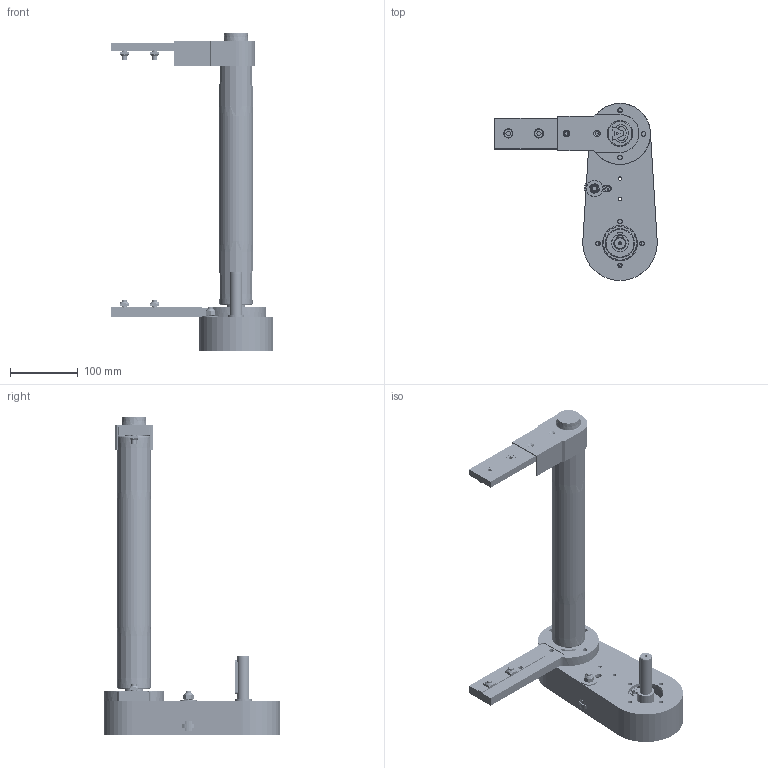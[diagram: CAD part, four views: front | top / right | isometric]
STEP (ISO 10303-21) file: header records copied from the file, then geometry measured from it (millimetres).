
FILE_DESCRIPTION (( 'STEP AP203' ), '1' );
FILE_NAME ('084.050.KTC.44.350.STEP', '2019-07-29T13:19:03', ( '' ), ( '' ), 'SwSTEP 2.0', 'SolidWorks 2018', '' );
FILE_SCHEMA (( 'CONFIG_CONTROL_DESIGN' ));
Length unit declared in the file: millimetre
Products named in the file (25): 084.810.005; 084.809.001; 084.810.001; 084.050.KTC.44.350; CHIAVETTE_A 6x6x50 UNI 6604-69; 084.810.004; 084.813.001; Circlip DIN 471 - 8 x 0.8_Circlip DIN 471 - 8 x 0.8; 084.802.023_084.802.023; 084.807.001_084.807.001; 084.302.000 DADI ALUSIC 13x13_084.302.004; 084.815.128_Default<A macchina>; 084.811.004; 084.301.000 VITI ALUSIC_084.301.003; RONDELLE FASCIA LARGA UNI 6593_8.4x24 UNI 6593; 084.807.002_084.807.002; CUSCINETTI A SFERE_608-2RS; DADI ESAGONALI AUTOBLOCCANTI UNI 7473 INOX_M8 UNI 7473 INOX; 084.803.012; 084.810.010; 084.802.034_084.802.034; 084.813.004; 084.803.014; 084.802.017_084.802.017; 084.809.003
Assembly tree (33 placements, depth 3):
  084.050.KTC.44.350
    084.815.128_Default<A macchina>
    084.811.004
    084.813.001
    084.810.001  x2
    084.802.034_084.802.034
    084.802.017_084.802.017
    084.807.001_084.807.001
    084.807.002_084.807.002
    084.803.014  x2
    084.813.004
    084.803.012
    084.809.001
    084.809.003
    084.810.005
      084.810.010
      084.810.004
      CUSCINETTI A SFERE_608-2RS  x2
      Circlip DIN 471 - 8 x 0.8_Circlip DIN 471 - 8 x 0.8
      RONDELLE FASCIA LARGA UNI 6593_8.4x24 UNI 6593
      DADI ESAGONALI AUTOBLOCCANTI UNI 7473 INOX_M8 UNI 7473 INOX
    084.301.000 VITI ALUSIC_084.301.003  x4
    084.302.000 DADI ALUSIC 13x13_084.302.004  x4
    CHIAVETTE_A 6x6x50 UNI 6604-69
    084.802.023_084.802.023
Bounding box: 240 x 261.5 x 469 mm (x, y, z)
Volume: 938339.4 mm3; surface area: 565062.5 mm2
Topology: 62 solids, 63 shells, 2913 faces, 6892 edges, 4409 vertices
Faces by surface type: cylinder 1405, plane 755, bspline 476, cone 180, torus 88, sphere 9
Entity records: 83281 total; most frequent: CARTESIAN_POINT 18914, DIRECTION 13932, ORIENTED_EDGE 12182, EDGE_CURVE 6091, AXIS2_PLACEMENT_3D 5848, VERTEX_POINT 3886, CIRCLE 3676, EDGE_LOOP 3171
